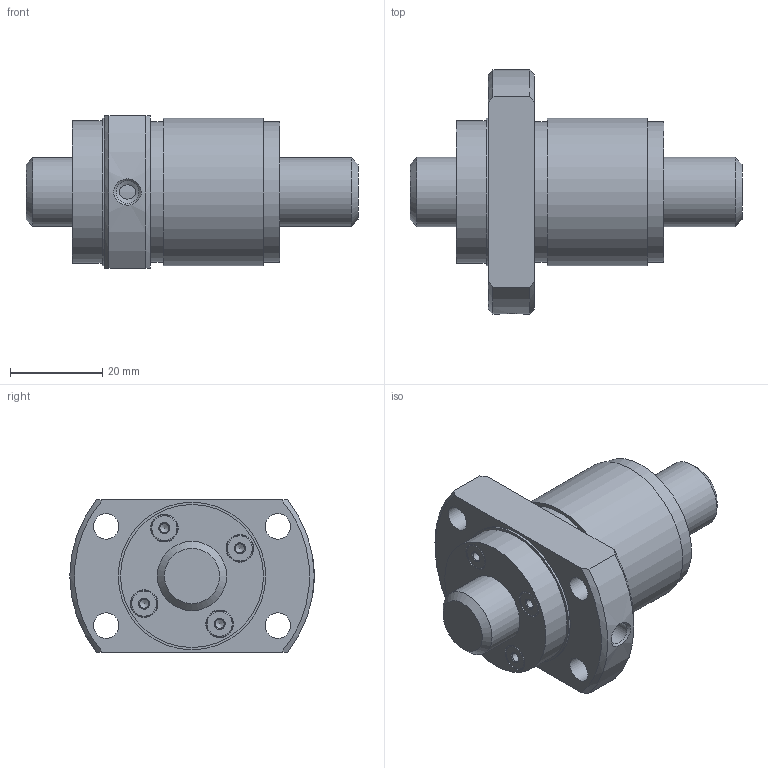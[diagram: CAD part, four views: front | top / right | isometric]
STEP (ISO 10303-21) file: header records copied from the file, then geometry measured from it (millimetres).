
FILE_DESCRIPTION(/* description */ ('STEP AP203'),/* implementation_level */ '2;1');
FILE_NAME(/* name */ 'WGF1520-3WWG1+72LC3_N0_13_0_0',/* time_stamp */ '2025-01-16T06:25:13+01:00',/* author */ ('License CC BY-ND 4.0'),/* organization */ ('CADENAS'),/* preprocessor_version */ 'ST-DEVELOPER v19.3',/* originating_system */ 'PARTsolutions',/* authorisation */ ' ');
FILE_SCHEMA (('CONFIG_CONTROL_DESIGN'));
Length unit declared in the file: millimetre
Products named in the file (3): WGF1520-3WWG1+72LC3_N0_13_0_0; NWW0130WGF1520-30Shaft; NWW0130WGF1520-3Nut
Assembly tree (2 placements, depth 2):
  WGF1520-3WWG1+72LC3_N0_13_0_0
    NWW0130WGF1520-30Shaft
    NWW0130WGF1520-3Nut
Bounding box: 72 x 53 x 33 mm (x, y, z)
Volume: 46823.3 mm3; surface area: 15344.1 mm2
Topology: 2 solids, 2 shells, 65 faces, 132 edges, 84 vertices
Faces by surface type: cylinder 26, plane 19, cone 16, torus 4
Full cylindrical faces by diameter (mm): 2 x4, 4.917 x1, 5.5 x4, 5.8 x4, 6 x4, 15 x2, 30.4 x2, 31 x1, 32 x2
Entity records: 1587 total; most frequent: CARTESIAN_POINT 280, DIRECTION 276, ORIENTED_EDGE 168, FACE_BOUND 134, AXIS2_PLACEMENT_3D 134, EDGE_LOOP 130, EDGE_CURVE 84, VERTEX_POINT 80
